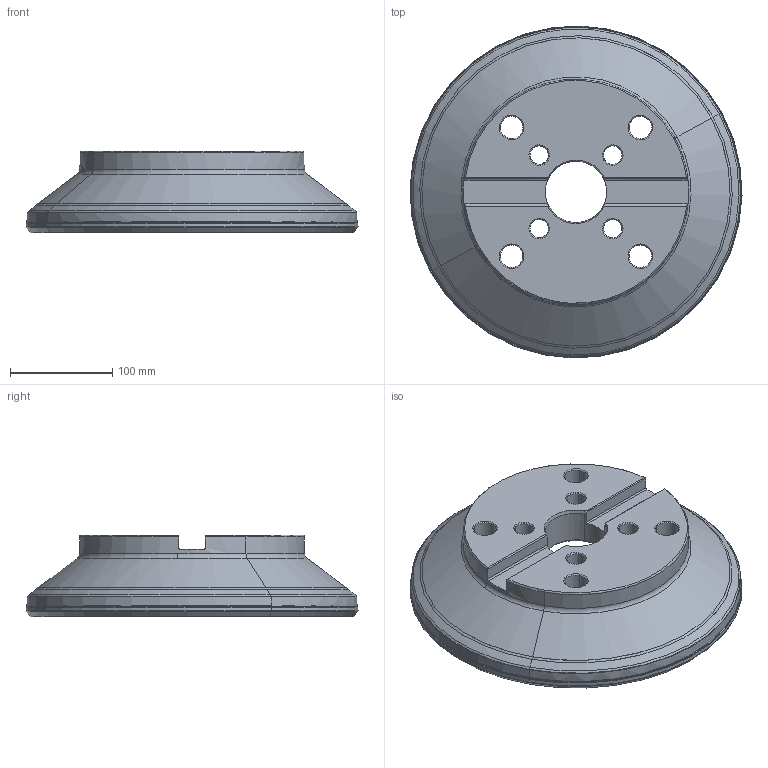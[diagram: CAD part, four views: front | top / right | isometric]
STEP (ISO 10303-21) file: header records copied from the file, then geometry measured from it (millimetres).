
FILE_DESCRIPTION(('CATIA V5 STEP','CAx-IF Rec.Pracs.--- Model Styling and Organization---1.2---2011-12-15'),'2;1');
FILE_NAME('N:\data\isr\design\special1\users\NATALY_B\Tal\NPA\3107004\IQ845 FSY D315-20-60-R07-L_1.stp','2016-06-06T03:57:37+00:00',('none'),('none'),'CATIA Version 5 Release 21 SP 5 (IN-10)','CATIA V5 STEP AP214','none');
FILE_SCHEMA(('AUTOMOTIVE_DESIGN { 1 0 10303 214 1 1 1 1 }'));
Length unit declared in the file: millimetre
Products named in the file (1): IQ845 FSY D315-20-60-R07
Bounding box: 324.24 x 324.24 x 80 mm (x, y, z)
Volume: 2434062.5 mm3; surface area: 282272.7 mm2
Topology: 2 solids, 2 shells, 201 faces, 489 edges, 295 vertices
Faces by surface type: cone 65, revolution 56, cylinder 40, plane 22, torus 18
Entity records: 7879 total; most frequent: CARTESIAN_POINT 3365, ORIENTED_EDGE 930, DIRECTION 670, EDGE_CURVE 465, AXIS2_PLACEMENT_3D 362, VERTEX_POINT 270, CIRCLE 231, EDGE_LOOP 223
